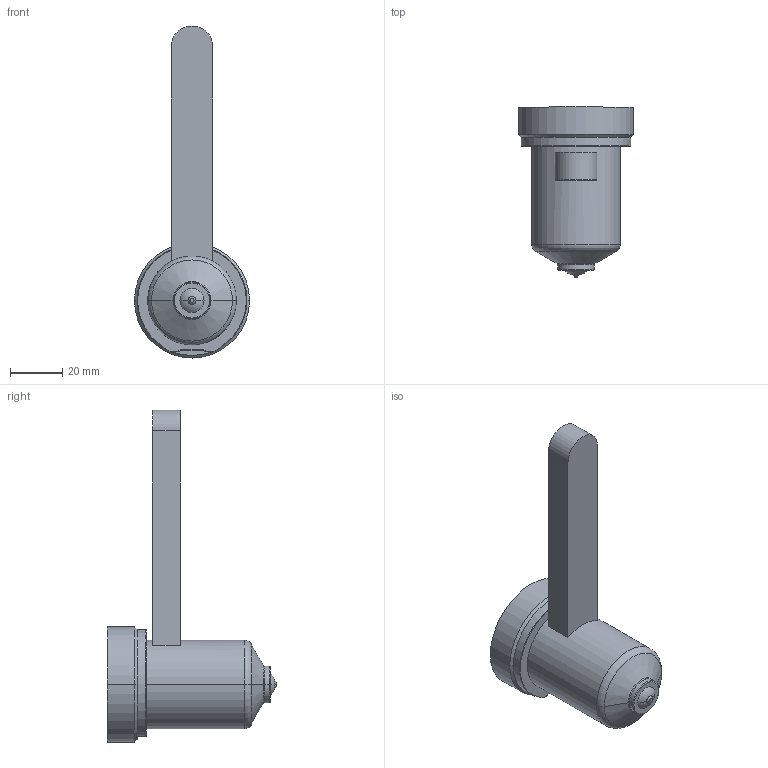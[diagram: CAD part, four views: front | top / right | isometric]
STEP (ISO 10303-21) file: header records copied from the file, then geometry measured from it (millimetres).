
FILE_DESCRIPTION((''),'2;1');
FILE_NAME('EO10_PG-BL_WR_050_COT','2024-02-19T11:09:31',('sundharh'),(''),'CREO PARAMETRIC BY PTC INC, 2023154','CREO PARAMETRIC BY PTC INC, 2023154','');
FILE_SCHEMA(('CONFIG_CONTROL_DESIGN'));
Length unit declared in the file: millimetre
Products named in the file (1): EO10_PG-BL_WR_050_COT
Bounding box: 44 x 65 x 127 mm (x, y, z)
Volume: 75584.8 mm3; surface area: 13976.4 mm2
Topology: 1 solids, 1 shells, 40 faces, 85 edges, 50 vertices
Faces by surface type: cylinder 13, plane 10, torus 9, cone 6, sphere 2
Entity records: 1193 total; most frequent: CARTESIAN_POINT 263, DIRECTION 209, ORIENTED_EDGE 170, AXIS2_PLACEMENT_3D 90, EDGE_CURVE 85, VERTEX_POINT 50, CIRCLE 50, EDGE_LOOP 43
